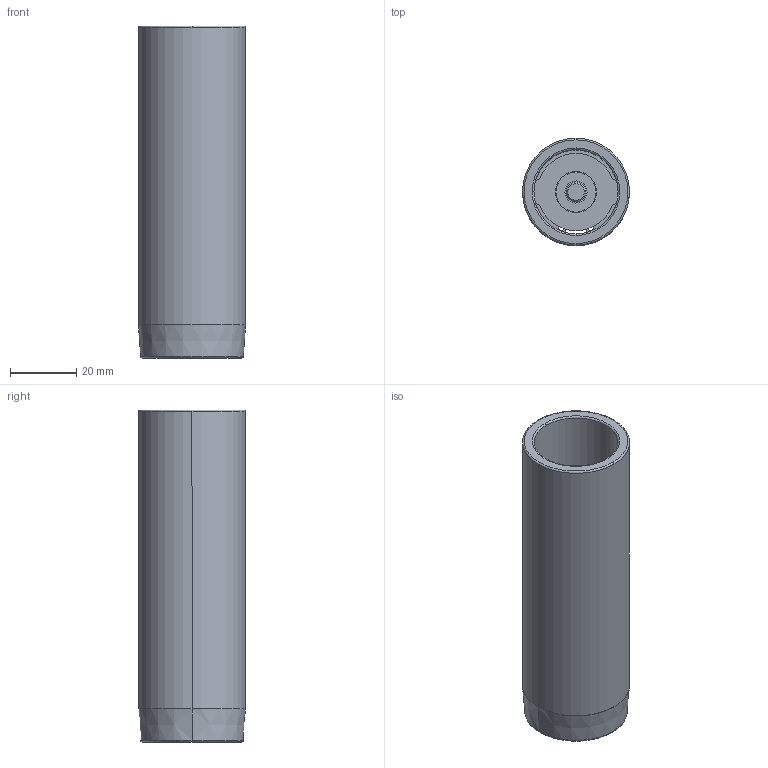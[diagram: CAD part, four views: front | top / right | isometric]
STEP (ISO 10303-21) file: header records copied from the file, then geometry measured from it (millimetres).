
FILE_DESCRIPTION((''),'2;1');
FILE_NAME('C12_025_100.stp','2009-01-28T08:32:41',(''),(''),'Mechanical Desktop 2009','Mechanical Desktop 2009',', , ');
FILE_SCHEMA(('CONFIG_CONTROL_DESIGN'));
Length unit declared in the file: millimetre
Products named in the file (2): Product; blmdl1
Assembly tree (1 placements, depth 2):
  Product
    blmdl1
Bounding box: 32.25 x 32.25 x 100 mm (x, y, z)
Volume: 32040.7 mm3; surface area: 21767.3 mm2
Topology: 5 solids, 5 shells, 79 faces, 200 edges, 134 vertices
Faces by surface type: cylinder 34, plane 29, torus 10, cone 6
Entity records: 2585 total; most frequent: DIRECTION 480, CARTESIAN_POINT 435, ORIENTED_EDGE 400, AXIS2_PLACEMENT_3D 203, EDGE_CURVE 200, VERTEX_POINT 134, CIRCLE 122, EDGE_LOOP 92
